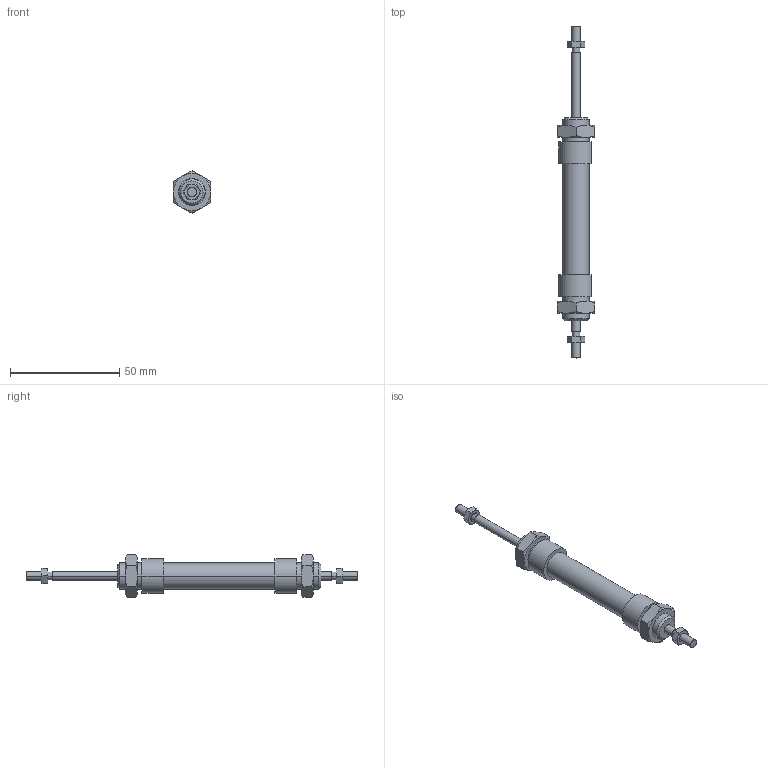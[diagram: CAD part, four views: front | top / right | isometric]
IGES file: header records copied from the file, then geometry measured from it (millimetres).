
Global section: file name: No Iges File Name specified; native system: AutoDesk Inventor R6.0; preprocessor: AutoDesk Inventor Iges Exporter R6.0; author: No Author specified; organization: No Organization specified; date: 20030403.071845; units: millimetre
Bounding box: 17 x 152 x 19.63 mm (x, y, z)
Volume: 14604.6 mm3; surface area: 9318.8 mm2
Topology: 6 solids, 6 shells, 172 faces, 374 edges, 220 vertices
Faces by surface type: cone 68, plane 46, bspline 32, cylinder 20, revolution 6
